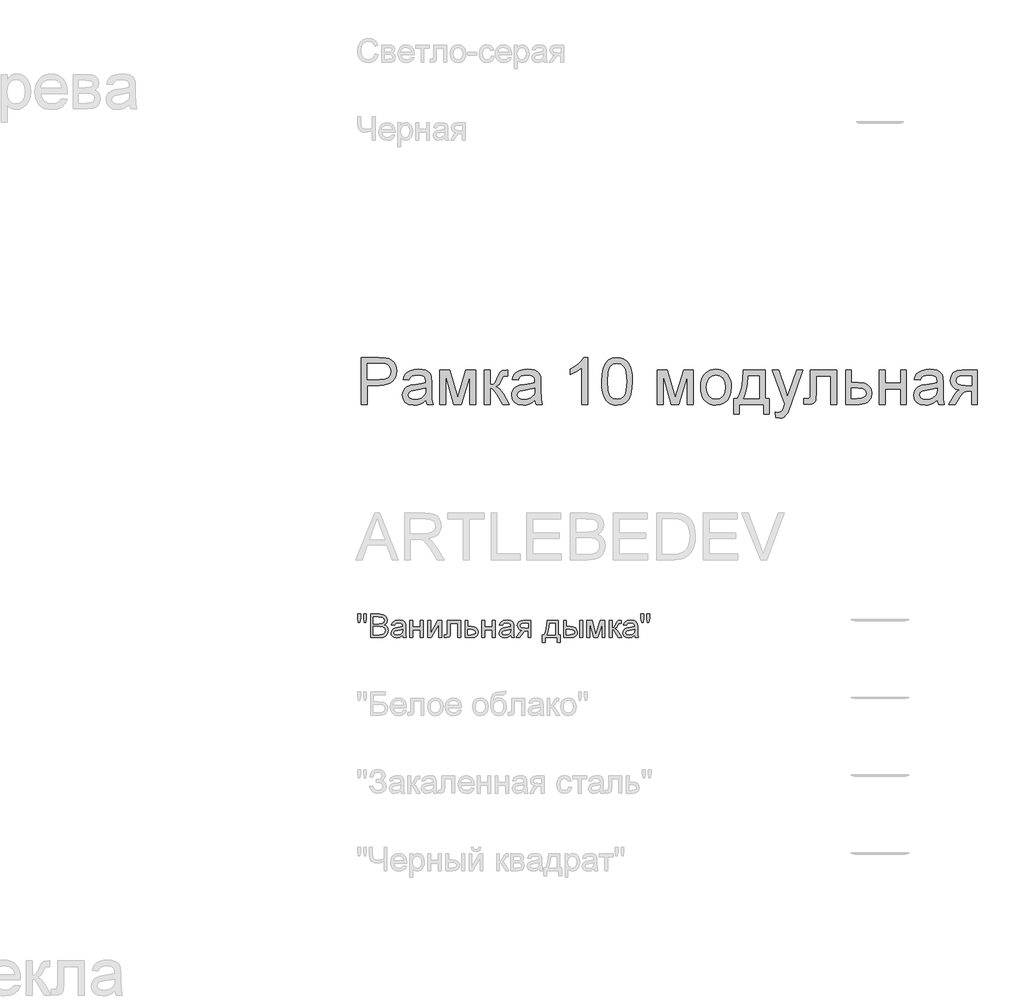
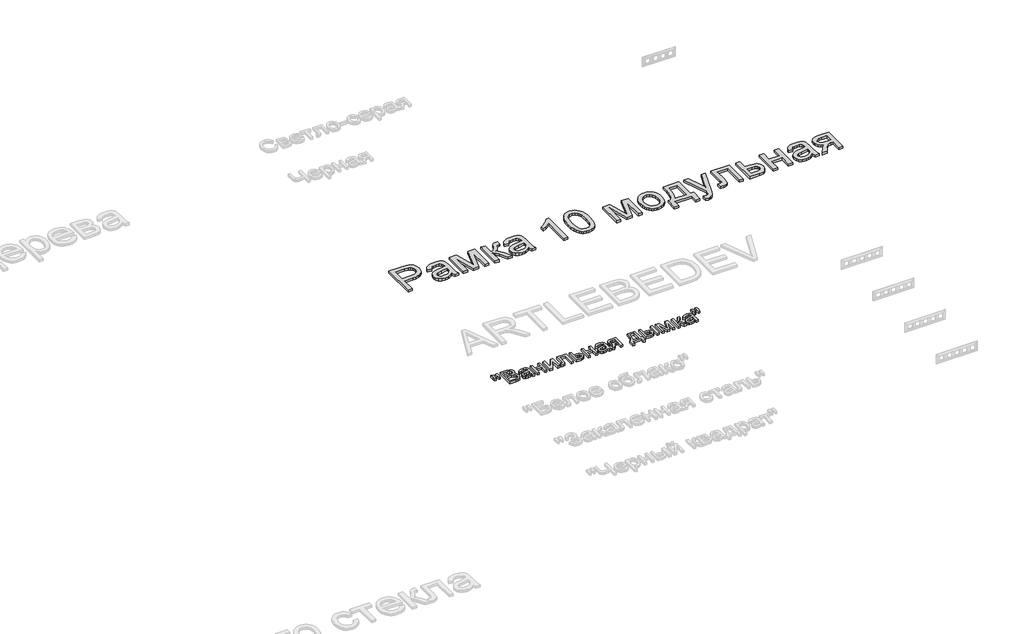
# One storey, part 126 of 168: 2 proxies.
"""IFC4 building model written with IfcOpenShell, lengths in millimetres."""

import ifcopenshell
import ifcopenshell.guid

model = None  # the IFC model being written
_history = None  # IfcOwnerHistory: only IFC2X3 demands one
_inside = {}  # id of a spatial element -> (the spatial element, [elements in it])
_under = {}  # id of a project, library or spatial element -> (it, [spatial elements below it])
_declared = {}  # id of a project -> (the project, [libraries it declares])
_typed = {}  # id of a type object -> (the type object, [elements of that type])
_made_of = {}  # id of a material, layer set ... -> (it, [elements and type objects made of it])


def new_model(schema):
    """Start an empty IFC model of exactly this schema.

    Asked for "IFC4X3", IfcOpenShell would pick the latest addendum, in which some entities
    have other attributes; the version numbers below select the first issue.
    IFC2X3 requires an IfcOwnerHistory on every rooted entity: one is made here for all.
    """
    global model, _history
    if schema == "IFC4X3":
        model = ifcopenshell.file(schema_version=(4, 3, 0, 0))
    else:
        model = ifcopenshell.file(schema=schema)
    _inside.clear()
    _under.clear()
    _declared.clear()
    _typed.clear()
    _made_of.clear()
    _history = None
    if model.schema == "IFC2X3":
        org = make("IfcOrganization", Name="unknown")
        user = make(
            "IfcPersonAndOrganization",
            ThePerson=make("IfcPerson", FamilyName="unknown"),
            TheOrganization=org,
        )
        app = make(
            "IfcApplication",
            ApplicationDeveloper=org,
            Version="unknown",
            ApplicationFullName="unknown",
            ApplicationIdentifier="unknown",
        )
        _history = make(
            "IfcOwnerHistory",
            OwningUser=user,
            OwningApplication=app,
            ChangeAction="ADDED",
            CreationDate=0,
        )
    return model


def make(cls, **values):
    """One entity of the class cls with the attributes given. An attribute that is None is left unset."""
    return model.create_entity(
        cls, **{name: value for name, value in values.items() if value is not None}
    )


def rooted(cls, **values):
    """An entity with a GlobalId (a new one), such as an element, a storey or a relation."""
    return make(cls, GlobalId=ifcopenshell.guid.new(), OwnerHistory=_history, **values)


def si_unit(unit_type, name, prefix=None):
    """IfcSIUnit, for example si_unit("LENGTHUNIT", "METRE", prefix="MILLI")."""
    return make("IfcSIUnit", UnitType=unit_type, Prefix=prefix, Name=name)


def assignment(units):
    """IfcUnitAssignment: the units of a project."""
    return None if units is None else make("IfcUnitAssignment", Units=units)


def point(xyz):
    """IfcCartesianPoint."""
    return None if xyz is None else make("IfcCartesianPoint", Coordinates=xyz)


def direction(xyz):
    """IfcDirection."""
    return None if xyz is None else make("IfcDirection", DirectionRatios=xyz)


def frame(location, z_axis=None, x_axis=None):
    """IfcAxis2Placement3D, a coordinate frame: its origin and axes. An axis left out is left unset."""
    return make(
        "IfcAxis2Placement3D",
        Location=point(location),
        Axis=direction(z_axis),
        RefDirection=direction(x_axis),
    )


def origin():
    """The frame at (0, 0, 0) with its axes left unset."""
    return frame((0.0, 0.0, 0.0))


def origin_with_axes():
    """The frame at (0, 0, 0) with the z axis (0, 0, 1) and the x axis (1, 0, 0) written out."""
    return frame((0.0, 0.0, 0.0), z_axis=(0.0, 0.0, 1.0), x_axis=(1.0, 0.0, 0.0))


def place(relative_to, where):
    """IfcLocalPlacement: puts the frame where relative to a parent placement (None: the world)."""
    return make(
        "IfcLocalPlacement", PlacementRelTo=relative_to, RelativePlacement=where
    )


def context(
    kind, dimensions, precision=None, world=None, true_north=None, identifier=None
):
    """IfcGeometricRepresentationContext, for example the 3D "Model" context."""
    return make(
        "IfcGeometricRepresentationContext",
        ContextIdentifier=identifier,
        ContextType=kind,
        CoordinateSpaceDimension=dimensions,
        Precision=precision,
        WorldCoordinateSystem=world,
        TrueNorth=true_north,
    )


def project(units=None, contexts=None):
    """IfcProject with its units and contexts."""
    return rooted(
        "IfcProject",
        Name="project",
        RepresentationContexts=contexts,
        UnitsInContext=assignment(units),
    )


def spatial(cls, under=None, at=None, **own):
    """A site, building, storey or space (cls), placed at a placement, below another one or the project."""
    s = rooted(cls, ObjectPlacement=at, **own)
    if under is not None:
        _under.setdefault(under.id(), (under, []))[1].append(s)
    return s


def polyline(points):
    """IfcPolyline through the points."""
    return make("IfcPolyline", Points=[point(p) for p in points])


def outline(outer, holes=None, kind="AREA"):
    """IfcArbitraryClosedProfileDef: a profile drawn as a closed curve; with holes, ...WithVoids."""
    if holes is None:
        return make("IfcArbitraryClosedProfileDef", ProfileType=kind, OuterCurve=outer)
    return make(
        "IfcArbitraryProfileDefWithVoids",
        ProfileType=kind,
        OuterCurve=outer,
        InnerCurves=holes,
    )


def extrude(swept, where, along, depth):
    """IfcExtrudedAreaSolid: the profile swept, set in the frame where, extruded along a direction by depth."""
    return make(
        "IfcExtrudedAreaSolid",
        SweptArea=swept,
        Position=where,
        ExtrudedDirection=direction(along),
        Depth=depth,
    )


def shape(context_of_items, identifier, shape_type, items):
    """IfcShapeRepresentation: the items that make up one representation, for example the "Body"."""
    return make(
        "IfcShapeRepresentation",
        ContextOfItems=context_of_items,
        RepresentationIdentifier=identifier,
        RepresentationType=shape_type,
        Items=items,
    )


def made_of(thing, what):
    """Note that an element or type object is made of a material, layer set ...; save() writes the relation."""
    if what is not None:
        _made_of.setdefault(what.id(), (what, []))[1].append(thing)
    return thing


def element(
    cls,
    number,
    at=None,
    inside=None,
    cuts=None,
    type_object=None,
    material=None,
    context=None,
    identifier="Body",
    shape_type=None,
    held_by="IfcProductDefinitionShape",
    body=None,
    shapes=None,
    **own,
):
    """One element of the class cls, such as IfcWall. Its Tag is "e" and its number.

    at: its placement. inside: the storey or other place that contains it. cuts: it is an
    opening in that element (IfcRelVoidsElement). A single representation is given by context,
    identifier, shape_type and body (its items); several are given by shapes. held_by: the class
    of the entity that holds the representations. save() writes the other relations.
    """
    e = rooted(cls, Tag="e%d" % number, ObjectPlacement=at, **own)
    if body is not None:
        shapes = [shape(context, identifier, shape_type, body)]
    if shapes is not None:
        e.Representation = make(held_by, Representations=shapes)
    if inside is not None:
        _inside.setdefault(inside.id(), (inside, []))[1].append(e)
    if cuts is not None:
        rooted(
            "IfcRelVoidsElement", RelatingBuildingElement=cuts, RelatedOpeningElement=e
        )
    if type_object is not None:
        _typed.setdefault(type_object.id(), (type_object, []))[1].append(e)
    return made_of(e, material)


def aggregate(whole, parts):
    """IfcRelAggregates: a whole, such as a stair, and the parts it consists of."""
    return rooted("IfcRelAggregates", RelatingObject=whole, RelatedObjects=parts)


def save(model, path):
    """Write the relations noted so far, then the file.

    IfcRelAggregates (storeys below a building ...), IfcRelContainedInSpatialStructure (elements
    in a storey), IfcRelDefinesByType, IfcRelAssociatesMaterial and IfcRelDeclares: one each for
    every whole, place, type object, material and project.
    """
    for whole, parts in _under.values():
        aggregate(whole, parts)
    for where, things in _inside.values():
        rooted(
            "IfcRelContainedInSpatialStructure",
            RelatedElements=things,
            RelatingStructure=where,
        )
    for kind, things in _typed.values():
        rooted("IfcRelDefinesByType", RelatedObjects=things, RelatingType=kind)
    for what, things in _made_of.values():
        rooted("IfcRelAssociatesMaterial", RelatedObjects=things, RelatingMaterial=what)
    for by, libraries in _declared.values():
        rooted("IfcRelDeclares", RelatingContext=by, RelatedDefinitions=libraries)
    model.write(path)


model = new_model("IFC4")

# Units and contexts
model_context = context("Model", 3, world=origin())
ifc_project = project(units=[si_unit("LENGTHUNIT", "METRE", prefix="MILLI")], contexts=[model_context])

# Site, building, storey
site = spatial("IfcSite", under=ifc_project)
building = spatial("IfcBuilding", under=site)
storey = spatial("IfcBuildingStorey", under=building, Name="Этаж 01", Elevation=0.0)

# Proxies
placement = place(None, origin())
element("IfcBuildingElementProxy", 1, Name="300 мм Arial 2", ObjectType="300 мм Arial 2", at=placement, inside=storey, context=model_context, shape_type="SweptSolid", body=[
    extrude(outline(polyline([(55099.0945017, -12548.4056816), (55099.0945017, -12247.0367511), (55210.7834754, -12247.0367511), (55255.8122316, -12249.9062307), (55275.8893915, -12255.2681108), (55292.4164901, -12263.9961111), (55305.7246213, -12276.4857048), (55316.1448788, -12293.1323651), (55322.8771193, -12312.7680666), (55325.1211995, -12334.224784), (55323.6059855, -12352.7246498), (55319.0603436, -12369.7437906), (55311.4842738, -12385.2822064), (55300.877776, -12399.3398971), (55286.3165468, -12410.9925593), (55266.8762826, -12419.3158895), (55242.5569835, -12424.3098875), (55213.3586494, -12425.9745536), (55136.765618, -12425.9745536), (55136.765618, -12548.4056816), (55099.0945017, -12548.4056816)]), holes=[polyline([(55136.765618, -12388.3034373), (55215.5659413, -12388.3034373), (55248.9696265, -12384.8453465), (55271.0425462, -12374.4710742), (55283.3481989, -12357.824414), (55287.4500832, -12335.5491592), (55285.0312591, -12318.6265874), (55277.7747867, -12304.352766), (55266.581977, -12293.6106117), (55252.3541408, -12287.2830414), (55214.6830245, -12284.7078674), (55136.765618, -12284.7078674), (55136.765618, -12388.3034373)])]), origin_with_axes(), (0.0, 0.0, 1.0), 20.0),
    extrude(outline(polyline([(55513.476781, -12520.1523443), (55495.4781544, -12535.584994), (55476.9460989, -12545.6833548), (55457.4575502, -12551.256767), (55436.589444, -12553.1145711), (55405.1079423, -12548.6448049), (55381.8853914, -12535.2355061), (55367.5655847, -12514.8732377), (55362.7923158, -12489.5445623), (55364.5949376, -12473.9279716), (55370.0028029, -12459.7461207), (55378.3445271, -12447.6060149), (55388.9487257, -12438.1146594), (55415.3258647, -12425.7538244), (55447.9202095, -12420.0884417), (55486.4374544, -12414.1287533), (55513.2560518, -12407.1389954), (55513.476781, -12398.7512859), (55510.883213, -12381.9390788), (55503.1025088, -12370.9394071), (55485.7016904, -12362.7724268), (55461.4582669, -12360.0501), (55439.0174652, -12361.8619189), (55423.3456922, -12367.2973753), (55412.6587202, -12377.3497509), (55405.1723216, -12393.0123268), (55367.5012053, -12388.3034373), (55374.0403078, -12367.7020455), (55383.7983777, -12351.5152378), (55397.685923, -12339.1360086), (55416.6134517, -12329.9573528), (55439.7624262, -12324.273576), (55466.3143092, -12322.3789837), (55491.7809404, -12324.0528468), (55511.9684648, -12329.074436), (55527.1895824, -12336.625214), (55537.7569927, -12345.8866432), (55544.7651447, -12357.3369703), (55549.3084874, -12371.4544419), (55551.1478973, -12404.4166687), (55551.1478973, -12451.2848348), (55553.0608837, -12516.7310418), (55560.5656764, -12548.4056816), (55522.8945601, -12548.4056816), (55513.476781, -12520.1523443)]), holes=[polyline([(55513.476781, -12444.8101117), (55452.7026754, -12456.3616064), (55420.2922716, -12462.4684475), (55405.61378, -12472.4012614), (55400.4634321, -12486.895812), (55403.2685323, -12498.0978187), (55411.683833, -12507.2764745), (55425.525393, -12513.4017097), (55444.6092715, -12515.4434548), (55464.8427813, -12513.1901776), (55482.7218462, -12506.4303459), (55497.2163968, -12496.4699409), (55507.2963635, -12484.6149436), (55511.7661297, -12472.4012614), (55513.2560518, -12455.4786896), (55513.476781, -12444.8101117)])]), origin_with_axes(), (0.0, 0.0, 1.0), 20.0),
    extrude(outline(polyline([(55602.9456823, -12327.0878733), (55667.7664898, -12327.0878733), (55717.7248647, -12504.2598421), (55771.5827888, -12327.0878733), (55833.6812696, -12327.0878733), (55833.6812696, -12548.4056816), (55796.0101533, -12548.4056816), (55796.0101533, -12370.2036431), (55741.8579236, -12548.4056816), (55692.4145835, -12548.4056816), (55640.6167986, -12361.6687808), (55640.6167986, -12548.4056816), (55602.9456823, -12548.4056816), (55602.9456823, -12327.0878733)])), origin_with_axes(), (0.0, 0.0, 1.0), 20.0),
    extrude(outline(polyline([(55890.1879441, -12327.0878733), (55927.8590604, -12327.0878733), (55927.8590604, -12421.265664), (55943.1813455, -12419.5734069), (55953.0957653, -12414.4966353), (55961.8697508, -12401.2528835), (55973.7707334, -12375.0596854), (55990.9508226, -12341.0306009), (56006.1075608, -12329.9573528), (56033.6619222, -12327.0878733), (56040.8724093, -12327.0878733), (56040.8724093, -12364.9797188), (56030.7188662, -12364.7589896), (56012.3247665, -12368.7321151), (55999.3753203, -12393.5273616), (55984.1817939, -12420.345959), (55962.8814263, -12433.4793463), (55974.8191971, -12438.7814455), (55986.6466032, -12448.1394438), (56009.9703217, -12479.0231373), (56050.2901884, -12548.4056816), (56007.4687241, -12548.4056816), (55967.9581979, -12480.4946653), (55948.0925701, -12451.7630814), (55938.8035497, -12446.5483542), (55927.8590604, -12444.8101117), (55927.8590604, -12548.4056816), (55890.1879441, -12548.4056816), (55890.1879441, -12327.0878733)])), origin_with_axes(), (0.0, 0.0, 1.0), 20.0),
    extrude(outline(polyline([(56215.1013222, -12520.1523443), (56197.1026956, -12535.584994), (56178.5706401, -12545.6833548), (56159.0820914, -12551.256767), (56138.2139852, -12553.1145711), (56106.7324835, -12548.6448049), (56083.5099326, -12535.2355061), (56069.1901259, -12514.8732377), (56064.416857, -12489.5445623), (56066.2194788, -12473.9279716), (56071.6273441, -12459.7461207), (56079.9690683, -12447.6060149), (56090.5732669, -12438.1146594), (56116.9504059, -12425.7538244), (56149.5447507, -12420.0884417), (56188.0619956, -12414.1287533), (56214.880593, -12407.1389954), (56215.1013222, -12398.7512859), (56212.5077542, -12381.9390788), (56204.72705, -12370.9394071), (56187.3262316, -12362.7724268), (56163.0828081, -12360.0501), (56140.6420064, -12361.8619189), (56124.9702334, -12367.2973753), (56114.2832614, -12377.3497509), (56106.7968628, -12393.0123268), (56069.1257465, -12388.3034373), (56075.664849, -12367.7020455), (56085.4229189, -12351.5152378), (56099.3104642, -12339.1360086), (56118.2379929, -12329.9573528), (56141.3869674, -12324.273576), (56167.9388504, -12322.3789837), (56193.4054816, -12324.0528468), (56213.593006, -12329.074436), (56228.8141236, -12336.625214), (56239.3815339, -12345.8866432), (56246.3896859, -12357.3369703), (56250.9330286, -12371.4544419), (56252.7724385, -12404.4166687), (56252.7724385, -12451.2848348), (56254.6854249, -12516.7310418), (56262.1902176, -12548.4056816), (56224.5191013, -12548.4056816), (56215.1013222, -12520.1523443)]), holes=[polyline([(56215.1013222, -12444.8101117), (56154.3272166, -12456.3616064), (56121.9168128, -12462.4684475), (56107.2383212, -12472.4012614), (56102.0879733, -12486.895812), (56104.8930735, -12498.0978187), (56113.3083742, -12507.2764745), (56127.1499342, -12513.4017097), (56146.2338127, -12515.4434548), (56166.4673225, -12513.1901776), (56184.3463874, -12506.4303459), (56198.840938, -12496.4699409), (56208.9209047, -12484.6149436), (56213.3906709, -12472.4012614), (56214.880593, -12455.4786896), (56215.1013222, -12444.8101117)])]), origin_with_axes(), (0.0, 0.0, 1.0), 20.0),
    extrude(outline(polyline([(56554.141369, -12548.4056816), (56516.4702527, -12548.4056816), (56516.4702527, -12313.5498158), (56480.7856991, -12338.9704617), (56441.1280201, -12357.9899609), (56441.1280201, -12322.3789837), (56470.7149295, -12306.2841464), (56496.3471075, -12287.1358886), (56516.5530261, -12266.7736202), (56529.8611573, -12247.0367511), (56554.141369, -12247.0367511), (56554.141369, -12548.4056816)])), origin_with_axes(), (0.0, 0.0, 1.0), 20.0),
    extrude(outline(polyline([(56643.6102702, -12400.1492375), (56646.3785822, -12351.9107109), (56654.6835183, -12313.4394512), (56668.4423049, -12284.1468474), (56687.5721686, -12263.4442881), (56712.2110653, -12251.1386354), (56742.4969505, -12247.0367511), (56765.7103044, -12249.4647723), (56786.4956371, -12256.7488358), (56803.8780614, -12268.6038331), (56816.8826899, -12284.7446556), (56826.7051392, -12305.0333477), (56834.5410257, -12329.3319534), (56839.6729795, -12360.1880558), (56841.3836308, -12400.1492375), (56838.64291, -12448.1118526), (56830.4207474, -12486.4911418), (56816.7447342, -12515.8113368), (56797.6424616, -12536.5966695), (56772.9483827, -12548.9850957), (56742.4969505, -12553.1145711), (56721.748406, -12551.3211464), (56703.3543062, -12545.9408722), (56687.3146512, -12536.9737486), (56673.629441, -12524.4197755), (56660.4960538, -12501.7260549), (56651.1150629, -12473.4497251), (56645.4864684, -12439.5907859), (56643.6102702, -12400.1492375)]), holes=[polyline([(56681.2813865, -12400.0756611), (56685.6959705, -12459.3322535), (56691.2142004, -12479.6002522), (56698.9397223, -12493.6280525), (56718.6581972, -12509.9896042), (56742.4969505, -12515.4434548), (56766.3357038, -12509.9712101), (56786.0541787, -12493.5544761), (56793.7797006, -12479.5036831), (56799.2979306, -12459.240283), (56803.7125145, -12400.0756611), (56799.4450834, -12342.152641), (56794.1107944, -12321.9513209), (56786.6427899, -12307.5901275), (56766.9611032, -12290.4284325), (56742.0554921, -12284.7078674), (56718.4742562, -12289.7478508), (56699.5283335, -12304.8678008), (56691.5452942, -12320.5027856), (56685.8431233, -12341.5824239), (56681.2813865, -12400.0756611)])]), origin_with_axes(), (0.0, 0.0, 1.0), 20.0),
    extrude(outline(polyline([(57001.4858751, -12327.0878733), (57066.3066827, -12327.0878733), (57116.2650576, -12504.2598421), (57170.1229817, -12327.0878733), (57232.2214625, -12327.0878733), (57232.2214625, -12548.4056816), (57194.5503462, -12548.4056816), (57194.5503462, -12370.2036431), (57140.3981165, -12548.4056816), (57090.9547763, -12548.4056816), (57039.1569914, -12361.6687808), (57039.1569914, -12548.4056816), (57001.4858751, -12548.4056816), (57001.4858751, -12327.0878733)])), origin_with_axes(), (0.0, 0.0, 1.0), 20.0),
    extrude(outline(polyline([(57279.3103579, -12437.7467774), (57281.3475044, -12409.0841715), (57287.4589441, -12384.385494), (57297.6446768, -12363.6507451), (57311.9047026, -12346.8799246), (57326.2612975, -12336.160763), (57342.1078145, -12328.504219), (57359.4442535, -12323.9102925), (57378.2706146, -12322.3789837), (57399.053648, -12324.2436856), (57417.8455202, -12329.8377912), (57434.6462311, -12339.1613005), (57449.4557806, -12352.2142135), (57461.5430034, -12368.5550719), (57470.176734, -12387.7424172), (57475.3569724, -12409.7762495), (57477.0837185, -12434.6565687), (57474.0302979, -12472.7139611), (57464.8700362, -12501.6846682), (57449.8696479, -12523.3805088), (57429.2958473, -12539.6133019), (57404.8592858, -12549.7392538), (57378.2706146, -12553.1145711), (57357.1840785, -12551.256767), (57338.2174624, -12545.6833548), (57321.3707662, -12536.3943344), (57306.6439901, -12523.3897059), (57294.685526, -12506.8901984), (57286.1437659, -12487.1165412), (57281.0187099, -12464.0687342), (57279.3103579, -12437.7467774)]), holes=[polyline([(57316.9814742, -12437.673201), (57321.3408758, -12471.7666649), (57334.4190808, -12496.0560737), (57354.1007675, -12510.5966095), (57378.2706146, -12515.4434548), (57402.3300971, -12510.5690184), (57421.9749956, -12495.9457091), (57435.0532005, -12471.3344036), (57439.4126022, -12436.4959786), (57435.0256094, -12403.3957961), (57421.864631, -12379.4374812), (57402.1921413, -12364.8969453), (57378.2706146, -12360.0501), (57354.1007675, -12364.8785512), (57334.4190808, -12379.3639048), (57321.3408758, -12403.5981312), (57316.9814742, -12437.673201)])]), origin_with_axes(), (0.0, 0.0, 1.0), 20.0),
    extrude(outline(polyline([(57552.4259511, -12327.0878733), (57693.6926372, -12327.0878733), (57693.6926372, -12510.7345653), (57721.9459745, -12510.7345653), (57721.9459745, -12609.6212456), (57684.2748582, -12609.6212456), (57684.2748582, -12548.4056816), (57528.8815034, -12548.4056816), (57528.8815034, -12609.6212456), (57491.2103871, -12609.6212456), (57491.2103871, -12510.7345653), (57514.7548348, -12510.7345653), (57531.8705446, -12479.8048865), (57543.8543006, -12438.8872116), (57550.7061028, -12387.9815405), (57552.4259511, -12327.0878733)]), holes=[polyline([(57585.3881779, -12364.7589896), (57582.2979691, -12410.8821947), (57576.55901, -12450.5858591), (57568.1713005, -12483.8699826), (57557.1348406, -12510.7345653), (57656.0215209, -12510.7345653), (57656.0215209, -12364.7589896), (57585.3881779, -12364.7589896)])]), origin_with_axes(), (0.0, 0.0, 1.0), 20.0),
    extrude(outline(polyline([(57764.3259803, -12633.1656933), (57759.6170908, -12596.8925285), (57778.7469545, -12600.2034665), (57796.6260195, -12596.0463999), (57807.5889029, -12584.4581171), (57817.8895988, -12556.7198147), (57820.8326548, -12547.5963412), (57740.7815326, -12327.0878733), (57780.5127881, -12327.0878733), (57822.9663703, -12449.9604597), (57837.7552266, -12499.1094942), (57852.5440828, -12455.6994188), (57896.1748874, -12327.0878733), (57935.6118373, -12327.0878733), (57858.5773475, -12553.7031823), (57838.5645669, -12602.8522169), (57828.3190534, -12618.5423839), (57816.7123764, -12629.4132969), (57803.2295013, -12635.7592613), (57787.3553932, -12637.8745828), (57764.3259803, -12633.1656933)])), origin_with_axes(), (0.0, 0.0, 1.0), 20.0),
    extrude(outline(polyline([(57985.6437886, -12327.0878733), (58155.163812, -12327.0878733), (58155.163812, -12548.1849524), (58117.4926957, -12548.1849524), (58117.4926957, -12364.7589896), (58023.3149049, -12364.7589896), (58023.3149049, -12470.3411222), (58020.7765192, -12519.0486984), (58016.0216444, -12530.0759612), (58006.8337915, -12539.6133019), (57992.8910639, -12546.2075866), (57973.8715648, -12548.4056816), (57943.2637828, -12546.4926952), (57943.2637828, -12510.7345653), (57960.1127781, -12510.7345653), (57977.1457145, -12508.4169087), (57983.9515314, -12501.0592688), (57985.6437886, -12468.2074066), (57985.6437886, -12327.0878733)])), origin_with_axes(), (0.0, 0.0, 1.0), 20.0),
    extrude(outline(polyline([(58211.6704864, -12327.0878733), (58249.3416028, -12327.0878733), (58249.3416028, -12407.1389954), (58292.7516782, -12407.1389954), (58330.3860063, -12411.857082), (58345.5335474, -12417.7546902), (58358.2346733, -12426.0113418), (58368.2778518, -12436.3419281), (58375.4515507, -12448.4613405), (58381.1905098, -12478.0666441), (58376.3068763, -12505.0231973), (58361.6559759, -12527.7675016), (58350.4240787, -12536.7967054), (58336.2629212, -12543.2461366), (58299.1528249, -12548.4056816), (58211.6704864, -12548.4056816), (58211.6704864, -12327.0878733)]), holes=[polyline([(58249.3416028, -12510.7345653), (58284.5111215, -12510.7345653), (58311.7987685, -12508.7571995), (58329.9445479, -12502.8251024), (58340.1256821, -12492.6991504), (58343.5193935, -12478.1402205), (58341.0085989, -12465.8345678), (58333.4762151, -12454.9636548), (58317.3353925, -12447.3484975), (58288.9992818, -12444.8101117), (58249.3416028, -12444.8101117), (58249.3416028, -12510.7345653)])]), origin_with_axes(), (0.0, 0.0, 1.0), 20.0),
    extrude(outline(polyline([(58428.2794052, -12327.0878733), (58465.9505215, -12327.0878733), (58465.9505215, -12411.847885), (58564.8372018, -12411.847885), (58564.8372018, -12327.0878733), (58602.5083181, -12327.0878733), (58602.5083181, -12548.4056816), (58564.8372018, -12548.4056816), (58564.8372018, -12449.5190013), (58465.9505215, -12449.5190013), (58465.9505215, -12548.4056816), (58428.2794052, -12548.4056816), (58428.2794052, -12327.0878733)])), origin_with_axes(), (0.0, 0.0, 1.0), 20.0),
    extrude(outline(polyline([(58800.2816787, -12520.1523443), (58782.2830521, -12535.584994), (58763.7509966, -12545.6833548), (58744.2624479, -12551.256767), (58723.3943417, -12553.1145711), (58691.91284, -12548.6448049), (58668.6902891, -12535.2355061), (58654.3704824, -12514.8732377), (58649.5972135, -12489.5445623), (58651.3998353, -12473.9279716), (58656.8077006, -12459.7461207), (58665.1494249, -12447.6060149), (58675.7536234, -12438.1146594), (58702.1307624, -12425.7538244), (58734.7251072, -12420.0884417), (58773.2423521, -12414.1287533), (58800.0609495, -12407.1389954), (58800.2816787, -12398.7512859), (58797.6881107, -12381.9390788), (58789.9074065, -12370.9394071), (58772.5065881, -12362.7724268), (58748.2631646, -12360.0501), (58725.8223629, -12361.8619189), (58710.1505899, -12367.2973753), (58699.463618, -12377.3497509), (58691.9772194, -12393.0123268), (58654.306103, -12388.3034373), (58660.8452055, -12367.7020455), (58670.6032754, -12351.5152378), (58684.4908208, -12339.1360086), (58703.4183494, -12329.9573528), (58726.5673239, -12324.273576), (58753.119207, -12322.3789837), (58778.5858381, -12324.0528468), (58798.7733626, -12329.074436), (58813.9944801, -12336.625214), (58824.5618904, -12345.8866432), (58831.5700424, -12357.3369703), (58836.1133851, -12371.4544419), (58837.952795, -12404.4166687), (58837.952795, -12451.2848348), (58839.8657814, -12516.7310418), (58847.3705741, -12548.4056816), (58809.6994578, -12548.4056816), (58800.2816787, -12520.1523443)]), holes=[polyline([(58800.2816787, -12444.8101117), (58739.5075731, -12456.3616064), (58707.0971694, -12462.4684475), (58692.4186777, -12472.4012614), (58687.2683298, -12486.895812), (58690.07343, -12498.0978187), (58698.4887307, -12507.2764745), (58712.3302907, -12513.4017097), (58731.4141692, -12515.4434548), (58751.647679, -12513.1901776), (58769.5267439, -12506.4303459), (58784.0212945, -12496.4699409), (58794.1012612, -12484.6149436), (58798.5710275, -12472.4012614), (58800.0609495, -12455.4786896), (58800.2816787, -12444.8101117)])]), origin_with_axes(), (0.0, 0.0, 1.0), 20.0),
    extrude(outline(polyline([(59059.2706033, -12327.0878733), (59059.2706033, -12548.4056816), (59021.599487, -12548.4056816), (59021.599487, -12463.6456699), (59001.0716717, -12463.6456699), (58973.1126401, -12468.4281358), (58961.9474215, -12478.8575904), (58946.8458656, -12500.5810222), (58916.8266948, -12548.4056816), (58873.2694666, -12548.4056816), (58911.0877357, -12487.9258816), (58927.7895783, -12466.2208438), (58943.1670457, -12456.5823356), (58917.415306, -12448.6912668), (58899.3155118, -12433.7000755), (58888.6101458, -12413.7608713), (58885.0416904, -12391.025764), (58889.9161269, -12365.2372362), (58904.5394362, -12344.8197854), (58928.3965836, -12331.5208513), (58960.9725342, -12327.0878733), (59059.2706033, -12327.0878733)]), holes=[polyline([(59021.599487, -12364.7589896), (58971.9354177, -12364.7589896), (58946.2848456, -12366.9386904), (58931.7259156, -12373.4777929), (58924.9660839, -12382.9415572), (58922.7128067, -12393.8952436), (58926.0329417, -12408.2518385), (58935.9933468, -12418.2122435), (58954.3966436, -12424.033976), (58983.0454539, -12425.9745536), (59021.599487, -12425.9745536), (59021.599487, -12364.7589896)])]), origin_with_axes(), (0.0, 0.0, 1.0), 20.0),
])
element("IfcBuildingElementProxy", 2, Name="150", ObjectType="150", at=placement, inside=storey, context=model_context, shape_type="SweptSolid", body=[
    extrude(outline(polyline([(55080.1485789, -13951.873446), (55075.550054, -13922.7739802), (55075.550054, -13897.7212163), (55094.3856121, -13897.7212163), (55094.3856121, -13922.7739802), (55090.2653338, -13951.873446), (55080.1485789, -13951.873446)])), origin_with_axes(), (0.0, 0.0, 1.0), 20.0),
    extrude(outline(polyline([(55117.7093306, -13951.873446), (55113.2211703, -13922.7739802), (55113.2211703, -13897.7212163), (55132.0567284, -13897.7212163), (55132.0567284, -13922.7739802), (55127.6421445, -13951.873446), (55117.7093306, -13951.873446)])), origin_with_axes(), (0.0, 0.0, 1.0), 20.0),
    extrude(outline(polyline([(55157.9556209, -14048.4056816), (55157.9556209, -13897.7212163), (55215.4555767, -13897.7212163), (55243.6169435, -13902.1541944), (55253.0807078, -13907.7781904), (55260.2452096, -13915.7842223), (55266.2600803, -13935.0612389), (55261.2017028, -13952.6643923), (55245.9162059, -13966.0001146), (55256.5893823, -13971.5735269), (55264.4758526, -13980.0532069), (55269.3456905, -13990.8781346), (55270.9689698, -14003.48729), (55266.5359918, -14023.7391938), (55255.5547142, -14038.160168), (55239.1655713, -14045.8121135), (55215.0141183, -14048.4056816), (55157.9556209, -14048.4056816)]), holes=[polyline([(55176.791179, -13958.9367803), (55211.1881456, -13958.9367803), (55231.2745025, -13957.3180996), (55243.3594261, -13950.3467358), (55247.4245221, -13938.0778712), (55243.6353376, -13925.7906126), (55232.7828187, -13918.5249432), (55208.5761834, -13916.5567745), (55176.791179, -13916.5567745), (55176.791179, -13958.9367803)]), polyline([(55176.791179, -14029.5701234), (55215.4187885, -14029.5701234), (55229.3983043, -14028.8343594), (55241.2257105, -14024.7324752), (55249.061597, -14016.3631598), (55252.1334117, -14003.671231), (55248.5281681, -13989.0295275), (55236.8479148, -13980.2923302), (55213.5793786, -13977.7723385), (55176.791179, -13977.7723385), (55176.791179, -14029.5701234)])]), origin_with_axes(), (0.0, 0.0, 1.0), 20.0),
    extrude(outline(polyline([(55365.1467606, -14034.279013), (55346.8814195, -14047.0445182), (55326.7030921, -14050.7601263), (55310.9623412, -14048.5252432), (55299.3510657, -14041.8205939), (55292.1911624, -14031.6394596), (55289.804528, -14018.975122), (55293.4097715, -14004.0759012), (55302.8827329, -13993.2601705), (55316.0713024, -13987.079753), (55332.3684748, -13984.2470616), (55365.036396, -13977.7723385), (55365.1467606, -13973.5784838), (55363.8499765, -13965.1723802), (55359.9596244, -13959.6725443), (55351.2592153, -13955.5890542), (55339.1375035, -13954.2278908), (55320.0812162, -13957.8515285), (55310.9945309, -13970.7090042), (55292.1589727, -13968.3545594), (55300.3075589, -13949.9604597), (55316.7150959, -13939.1815172), (55341.5655247, -13935.3923327), (55364.3926025, -13938.7400588), (55377.2868664, -13947.1461624), (55383.0626137, -13959.9300617), (55383.9823187, -13976.4111751), (55383.9823187, -13999.8452582), (55384.9388119, -14032.5683617), (55388.6912083, -14048.4056816), (55369.8556501, -14048.4056816), (55365.1467606, -14034.279013)]), holes=[polyline([(55365.1467606, -13996.6078966), (55334.7597078, -14002.383644), (55318.5545059, -14005.4370645), (55311.2152601, -14010.4034715), (55308.6400861, -14017.6507468), (55314.2502865, -14027.841078), (55330.7130058, -14031.9245682), (55349.7692932, -14027.4180137), (55362.0565518, -14016.5103126), (55365.036396, -14001.9421856), (55365.1467606, -13996.6078966)])]), origin_with_axes(), (0.0, 0.0, 1.0), 20.0),
    extrude(outline(polyline([(55409.8812112, -13937.7467774), (55428.7167693, -13937.7467774), (55428.7167693, -13980.1267833), (55478.1601095, -13980.1267833), (55478.1601095, -13937.7467774), (55496.9956676, -13937.7467774), (55496.9956676, -14048.4056816), (55478.1601095, -14048.4056816), (55478.1601095, -13998.9623414), (55428.7167693, -13998.9623414), (55428.7167693, -14048.4056816), (55409.8812112, -14048.4056816), (55409.8812112, -13937.7467774)])), origin_with_axes(), (0.0, 0.0, 1.0), 20.0),
    extrude(outline(polyline([(55525.2490049, -13937.7467774), (55544.084563, -13937.7467774), (55544.084563, -14022.1389071), (55590.364118, -13937.7467774), (55614.7179061, -13937.7467774), (55614.7179061, -14048.4056816), (55595.8823479, -14048.4056816), (55595.8823479, -13964.5285867), (55549.8970985, -14048.4056816), (55525.2490049, -14048.4056816), (55525.2490049, -13937.7467774)])), origin_with_axes(), (0.0, 0.0, 1.0), 20.0),
    extrude(outline(polyline([(55652.3890224, -13937.7467774), (55737.1490341, -13937.7467774), (55737.1490341, -14048.295317), (55718.3134759, -14048.295317), (55718.3134759, -13956.5823356), (55671.2245806, -13956.5823356), (55671.2245806, -14009.3734019), (55669.9553877, -14033.72719), (55662.9840239, -14044.0094917), (55646.5029105, -14048.4056816), (55631.1990195, -14047.4491884), (55631.1990195, -14029.5701234), (55639.6235172, -14029.5701234), (55648.1399854, -14028.4112951), (55651.5428938, -14024.7324752), (55652.3890224, -14008.3065441), (55652.3890224, -13937.7467774)])), origin_with_axes(), (0.0, 0.0, 1.0), 20.0),
    extrude(outline(polyline([(55765.4023713, -13937.7467774), (55784.2379295, -13937.7467774), (55784.2379295, -13977.7723385), (55805.9429672, -13977.7723385), (55824.7601312, -13980.1313818), (55838.6844648, -13987.2085117), (55847.2929034, -13998.433511), (55850.162383, -14013.2361628), (55847.7205663, -14026.7144394), (55840.395116, -14038.0865916), (55827.6985887, -14045.8259091), (55809.1435405, -14048.4056816), (55765.4023713, -14048.4056816), (55765.4023713, -13937.7467774)]), holes=[polyline([(55784.2379295, -14029.5701234), (55801.8226888, -14029.5701234), (55824.539402, -14025.615392), (55829.6299692, -14020.552416), (55831.3268249, -14013.272951), (55826.3052356, -14001.6846682), (55818.2348244, -13997.8770895), (55804.066769, -13996.6078966), (55784.2379295, -13996.6078966), (55784.2379295, -14029.5701234)])]), origin_with_axes(), (0.0, 0.0, 1.0), 20.0),
    extrude(outline(polyline([(55873.7068307, -13937.7467774), (55892.5423889, -13937.7467774), (55892.5423889, -13980.1267833), (55941.985729, -13980.1267833), (55941.985729, -13937.7467774), (55960.8212872, -13937.7467774), (55960.8212872, -14048.4056816), (55941.985729, -14048.4056816), (55941.985729, -13998.9623414), (55892.5423889, -13998.9623414), (55892.5423889, -14048.4056816), (55873.7068307, -14048.4056816), (55873.7068307, -13937.7467774)])), origin_with_axes(), (0.0, 0.0, 1.0), 20.0),
    extrude(outline(polyline([(56059.7079675, -14034.279013), (56041.4426264, -14047.0445182), (56021.264299, -14050.7601263), (56005.5235481, -14048.5252432), (55993.9122726, -14041.8205939), (55986.7523693, -14031.6394596), (55984.3657349, -14018.975122), (55987.9709784, -14004.0759012), (55997.4439398, -13993.2601705), (56010.6325093, -13987.079753), (56026.9296817, -13984.2470616), (56059.5976029, -13977.7723385), (56059.7079675, -13973.5784838), (56058.4111834, -13965.1723802), (56054.5208313, -13959.6725443), (56045.8204221, -13955.5890542), (56033.6987104, -13954.2278908), (56014.6424231, -13957.8515285), (56005.5557378, -13970.7090042), (55986.7201796, -13968.3545594), (55994.8687658, -13949.9604597), (56011.2763028, -13939.1815172), (56036.1267316, -13935.3923327), (56058.9538094, -13938.7400588), (56071.8480733, -13947.1461624), (56077.6238206, -13959.9300617), (56078.5435256, -13976.4111751), (56078.5435256, -13999.8452582), (56079.5000188, -14032.5683617), (56083.2524152, -14048.4056816), (56064.416857, -14048.4056816), (56059.7079675, -14034.279013)]), holes=[polyline([(56059.7079675, -13996.6078966), (56029.3209147, -14002.383644), (56013.1157128, -14005.4370645), (56005.776467, -14010.4034715), (56003.201293, -14017.6507468), (56008.8114934, -14027.841078), (56025.2742127, -14031.9245682), (56044.3305001, -14027.4180137), (56056.6177587, -14016.5103126), (56059.5976029, -14001.9421856), (56059.7079675, -13996.6078966)])]), origin_with_axes(), (0.0, 0.0, 1.0), 20.0),
    extrude(outline(polyline([(56189.2024298, -13937.7467774), (56189.2024298, -14048.4056816), (56170.3668716, -14048.4056816), (56170.3668716, -14006.0256757), (56160.1029639, -14006.0256757), (56146.1234481, -14008.4169087), (56132.9900609, -14024.4933519), (56117.9804755, -14048.4056816), (56096.2018614, -14048.4056816), (56115.1109959, -14018.1657816), (56123.4619172, -14007.3132627), (56131.1506509, -14002.4940086), (56118.2747811, -13998.5484742), (56109.224884, -13991.0528785), (56103.872201, -13981.0832765), (56102.0879733, -13969.7157228), (56104.5251915, -13956.8214589), (56111.8368462, -13946.6127335), (56123.7654199, -13939.9632664), (56140.0533952, -13937.7467774), (56189.2024298, -13937.7467774)]), holes=[polyline([(56170.3668716, -13956.5823356), (56145.5348369, -13956.5823356), (56132.7095509, -13957.672186), (56125.4300859, -13960.9417372), (56120.9235315, -13971.1504626), (56122.583599, -13978.32876), (56127.5638015, -13983.3089625), (56151.0898551, -13987.1901176), (56170.3668716, -13987.1901176), (56170.3668716, -13956.5823356)])]), origin_with_axes(), (0.0, 0.0, 1.0), 20.0),
    extrude(outline(polyline([(56292.7979996, -13937.7467774), (56363.4313427, -13937.7467774), (56363.4313427, -14029.5701234), (56377.5580113, -14029.5701234), (56377.5580113, -14079.0134636), (56358.7224531, -14079.0134636), (56358.7224531, -14048.4056816), (56281.0257758, -14048.4056816), (56281.0257758, -14079.0134636), (56262.1902176, -14079.0134636), (56262.1902176, -14029.5701234), (56273.9624415, -14029.5701234), (56282.5202964, -14014.105284), (56288.5121744, -13993.6464466), (56292.7979996, -13937.7467774)]), holes=[polyline([(56309.279113, -13956.5823356), (56304.864529, -13999.4957703), (56295.1524444, -14029.5701234), (56344.5957845, -14029.5701234), (56344.5957845, -13956.5823356), (56309.279113, -13956.5823356)])]), origin_with_axes(), (0.0, 0.0, 1.0), 20.0),
    extrude(outline(polyline([(56502.3435841, -13937.7467774), (56521.1791422, -13937.7467774), (56521.1791422, -14048.4056816), (56502.3435841, -14048.4056816), (56502.3435841, -13937.7467774)])), origin_with_axes(), (0.0, 0.0, 1.0), 20.0),
    extrude(outline(polyline([(56398.7480142, -13937.7467774), (56417.5835724, -13937.7467774), (56417.5835724, -13977.7723385), (56440.8705027, -13977.7723385), (56460.9982463, -13980.1313818), (56475.9112627, -13987.2085117), (56485.1405023, -13998.433511), (56488.2169154, -14013.2361628), (56485.637143, -14026.7144394), (56477.8978255, -14038.0865916), (56464.4931253, -14045.8259091), (56444.9172046, -14048.4056816), (56398.7480142, -14048.4056816), (56398.7480142, -13937.7467774)]), holes=[polyline([(56417.5835724, -14029.5701234), (56436.9341653, -14029.5701234), (56461.9133528, -14025.615392), (56467.5143562, -14020.552416), (56469.3813573, -14013.272951), (56463.8447333, -14001.6846682), (56454.9649816, -13997.8770895), (56439.3989747, -13996.6078966), (56417.5835724, -13996.6078966), (56417.5835724, -14029.5701234)])]), origin_with_axes(), (0.0, 0.0, 1.0), 20.0),
    extrude(outline(polyline([(56549.4324794, -13937.7467774), (56581.8428832, -13937.7467774), (56606.8220707, -14026.3327619), (56633.7510327, -13937.7467774), (56664.8002731, -13937.7467774), (56664.8002731, -14048.4056816), (56645.964715, -14048.4056816), (56645.964715, -13959.3046623), (56618.8886001, -14048.4056816), (56594.1669301, -14048.4056816), (56568.2680376, -13955.0372312), (56568.2680376, -14048.4056816), (56549.4324794, -14048.4056816), (56549.4324794, -13937.7467774)])), origin_with_axes(), (0.0, 0.0, 1.0), 20.0),
    extrude(outline(polyline([(56693.0536104, -13937.7467774), (56711.8891685, -13937.7467774), (56711.8891685, -13984.8356728), (56724.5075209, -13981.4511584), (56734.845005, -13961.7326835), (56743.4350496, -13944.7181412), (56751.0134187, -13939.1815172), (56764.7905994, -13937.7467774), (56768.395843, -13937.7467774), (56768.395843, -13956.6927002), (56763.3190714, -13956.5823356), (56754.1220216, -13958.5688983), (56747.6472984, -13970.9665216), (56740.0505352, -13984.3758203), (56729.4003515, -13990.9425139), (56741.2829399, -13998.2725627), (56752.9447992, -14013.7144094), (56773.1047325, -14048.4056816), (56751.6940004, -14048.4056816), (56731.9387373, -14014.4501734), (56722.0059234, -14000.0843815), (56711.8891685, -13996.6078966), (56711.8891685, -14048.4056816), (56693.0536104, -14048.4056816), (56693.0536104, -13937.7467774)])), origin_with_axes(), (0.0, 0.0, 1.0), 20.0),
    extrude(outline(polyline([(56855.5102994, -14034.279013), (56837.2449584, -14047.0445182), (56817.0666309, -14050.7601263), (56801.3258801, -14048.5252432), (56789.7146046, -14041.8205939), (56782.5547013, -14031.6394596), (56780.1680668, -14018.975122), (56783.7733104, -14004.0759012), (56793.2462717, -13993.2601705), (56806.4348413, -13987.079753), (56822.7320137, -13984.2470616), (56855.3999348, -13977.7723385), (56855.5102994, -13973.5784838), (56854.2135154, -13965.1723802), (56850.3231633, -13959.6725443), (56841.6227541, -13955.5890542), (56829.5010424, -13954.2278908), (56810.444755, -13957.8515285), (56801.3580697, -13970.7090042), (56782.5225116, -13968.3545594), (56790.6710978, -13949.9604597), (56807.0786348, -13939.1815172), (56831.9290635, -13935.3923327), (56854.7561413, -13938.7400588), (56867.6504053, -13947.1461624), (56873.4261526, -13959.9300617), (56874.3458576, -13976.4111751), (56874.3458576, -13999.8452582), (56875.3023508, -14032.5683617), (56879.0547471, -14048.4056816), (56860.219189, -14048.4056816), (56855.5102994, -14034.279013)]), holes=[polyline([(56855.5102994, -13996.6078966), (56825.1232466, -14002.383644), (56808.9180447, -14005.4370645), (56801.5787989, -14010.4034715), (56799.003625, -14017.6507468), (56804.6138254, -14027.841078), (56821.0765447, -14031.9245682), (56840.132832, -14027.4180137), (56852.4200907, -14016.5103126), (56855.3999348, -14001.9421856), (56855.5102994, -13996.6078966)])]), origin_with_axes(), (0.0, 0.0, 1.0), 20.0),
    extrude(outline(polyline([(56900.1343854, -13951.873446), (56895.5358605, -13922.7739802), (56895.5358605, -13897.7212163), (56914.3714187, -13897.7212163), (56914.3714187, -13922.7739802), (56910.2511403, -13951.873446), (56900.1343854, -13951.873446)])), origin_with_axes(), (0.0, 0.0, 1.0), 20.0),
    extrude(outline(polyline([(56937.6951372, -13951.873446), (56933.2069768, -13922.7739802), (56933.2069768, -13897.7212163), (56952.042535, -13897.7212163), (56952.042535, -13922.7739802), (56947.627951, -13951.873446), (56937.6951372, -13951.873446)])), origin_with_axes(), (0.0, 0.0, 1.0), 20.0),
])

save(model, "model.ifc")
